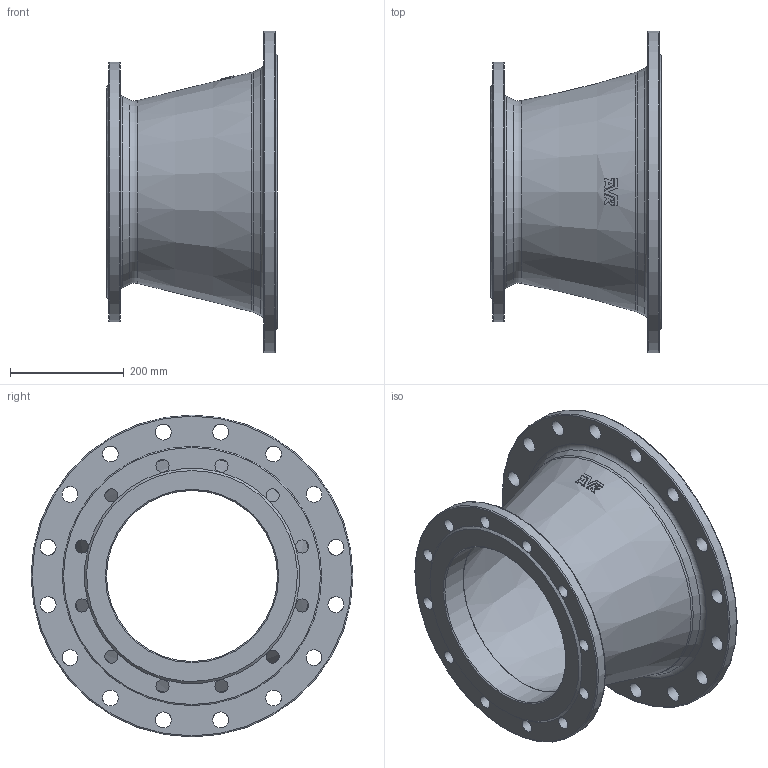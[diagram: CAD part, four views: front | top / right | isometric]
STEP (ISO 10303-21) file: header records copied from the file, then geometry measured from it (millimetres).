
FILE_DESCRIPTION (( 'STEP AP203' ), '1' );
FILE_NAME ('O_712_2210_DN400_DN300_0X_REV01.step', '2024-08-08T06:42:26', ( '' ), ( '' ), 'SwSTEP 2.0', 'SolidWorks 2022', '' );
FILE_SCHEMA (( 'CONFIG_CONTROL_DESIGN' ));
Length unit declared in the file: millimetre
Products named in the file (1): O_712_2210_DN400_DN300_0X_REV01
Bounding box: 300 x 565 x 565 mm (x, y, z)
Volume: 7493469.8 mm3; surface area: 1105331.4 mm2
Topology: 1 solids, 1 shells, 125 faces, 362 edges, 219 vertices
Faces by surface type: plane 69, cylinder 34, cone 12, torus 10
Full cylindrical faces by diameter (mm): 23 x12, 28 x16, 300 x1, 400 x1, 455 x1, 565 x1
Entity records: 3798 total; most frequent: CARTESIAN_POINT 861, DIRECTION 621, ORIENTED_EDGE 554, AXIS2_PLACEMENT_3D 292, EDGE_CURVE 277, EDGE_LOOP 213, VERTEX_POINT 184, FACE_OUTER_BOUND 167
